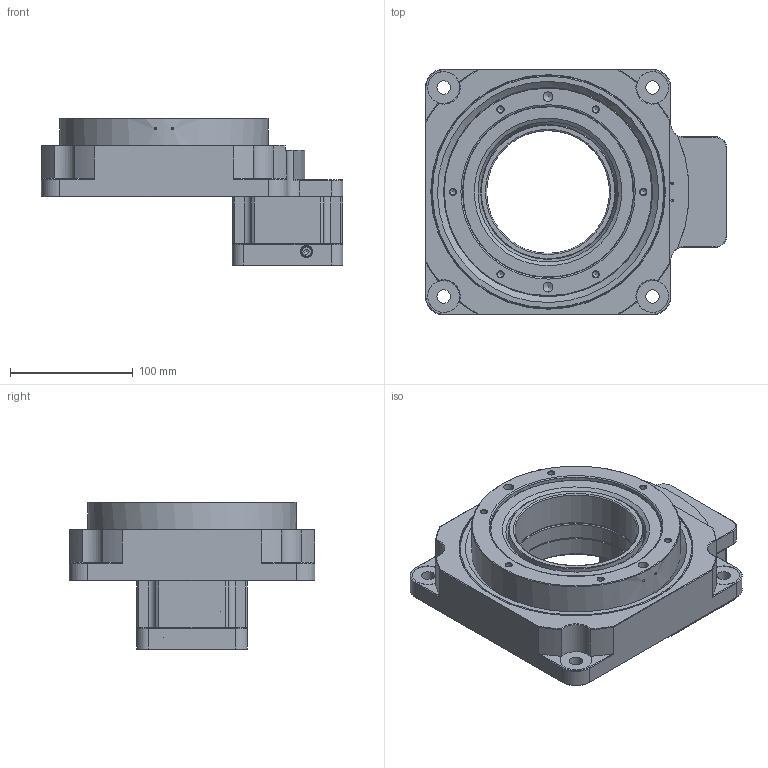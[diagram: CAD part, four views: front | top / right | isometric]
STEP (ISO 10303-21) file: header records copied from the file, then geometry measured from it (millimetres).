
FILE_DESCRIPTION((''),'2;1');
FILE_NAME('D:\유성\액추에이터\작성도면\액추에이터 3d\200\SHA200SV010 (1 STAGE-A TYPE).stp','2014-05-22T15:09:28',('nagyu'),(''),'Autodesk Inventor 2013','Autodesk Inventor 2013','');
FILE_SCHEMA(('AUTOMOTIVE_DESIGN { 1 0 10303 214 1 1 1 1 }'));
Length unit declared in the file: millimetre
Products named in the file (1): SHA200SV010 (1 STAGE-A TYPE)_Shrinkwrap_1
Bounding box: 245.48 x 200 x 120 mm (x, y, z)
Volume: 1727099.3 mm3; surface area: 370779.2 mm2
Topology: 2 solids, 25 shells, 1460 faces, 3870 edges, 2501 vertices
Faces by surface type: bspline 570, cylinder 403, plane 272, cone 174, torus 41
Full cylindrical faces by diameter (mm): 1.5 x2, 2.013 x4, 3.242 x1, 4.134 x20, 4.917 x10, 5 x6, 5.5 x21, 7.9 x1, 8 x5, 8.5 x6, 9.5 x20, 10 x1, 11 x4, 17.5 x1, 19.2 x1, 21.7 x1, 22.5 x1, 26 x4, 28.6 x1, 29.8 x1, 29.9 x1, 30 x2, 34 x1, 34.282 x2, 38 x1, 39.6 x1, 42 x2, 49 x2, 55 x2, 57 x1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
Entity records: 54415 total; most frequent: CARTESIAN_POINT 21873, ORIENTED_EDGE 6920, DIRECTION 5363, EDGE_CURVE 3460, AXIS2_PLACEMENT_3D 2489, VERTEX_POINT 2407, EDGE_LOOP 1882, CIRCLE 1590
